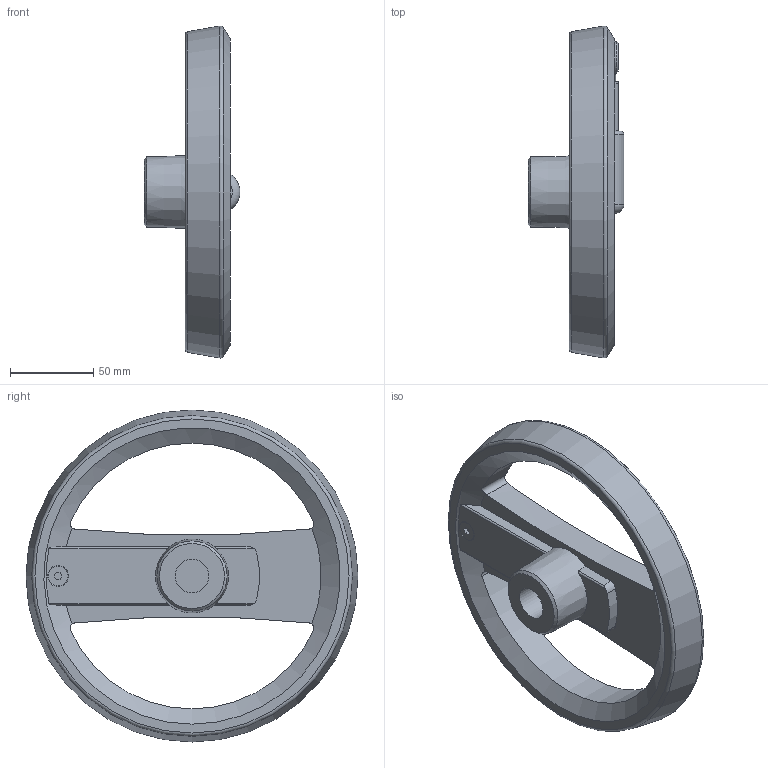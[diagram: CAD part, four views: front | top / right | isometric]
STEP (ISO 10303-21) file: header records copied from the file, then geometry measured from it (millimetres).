
FILE_DESCRIPTION( ( 'STEP AP203' ), '1' );
FILE_NAME( 'C:/Temp/Ganter_Step_05_03_2020/data/1_3/gn_924_7/gn_924_7_b/Handwheel with retractable handle GN 924.7-200-B20-R-SW (unactivated).stp', '2020-03-05T10:41:46', ( 'License CC BY-ND 4.0' ), ( 'CADENAS' ), ' ', 'PARTsolutions', ' ' );
FILE_SCHEMA( ( 'CONFIG_CONTROL_DESIGN' ) );
Length unit declared in the file: millimetre
Products named in the file (3): Handwheel with retractable handle GN 924.7-200-B20-R-SW (unactivated); _Umleggriff-Handrad GN 924.7-200-B20-R-SW-1; _Umleggriff-Handrad GN 924.7-200-B20-R-SW (0)-2
Assembly tree (2 placements, depth 2):
  Handwheel with retractable handle GN 924.7-200-B20-R-SW (unactivated)
    _Umleggriff-Handrad GN 924.7-200-B20-R-SW-1
    _Umleggriff-Handrad GN 924.7-200-B20-R-SW (0)-2
Bounding box: 57.7 x 199.58 x 199.58 mm (x, y, z)
Volume: 413912.2 mm3; surface area: 85838.4 mm2
Topology: 2 solids, 2 shells, 101 faces, 258 edges, 165 vertices
Faces by surface type: plane 41, cylinder 40, cone 10, torus 8, sphere 2
Full cylindrical faces by diameter (mm): 4 x4, 5 x1, 8 x1, 12 x1, 15 x1, 18.5 x1, 20 x2, 25 x2, 26.6 x1
Entity records: 3335 total; most frequent: CARTESIAN_POINT 938, DIRECTION 486, ORIENTED_EDGE 432, EDGE_CURVE 216, AXIS2_PLACEMENT_3D 203, VERTEX_POINT 158, EDGE_LOOP 145, FACE_OUTER_BOUND 122
